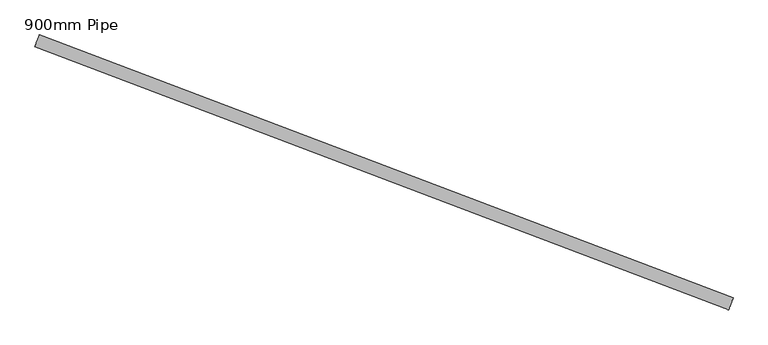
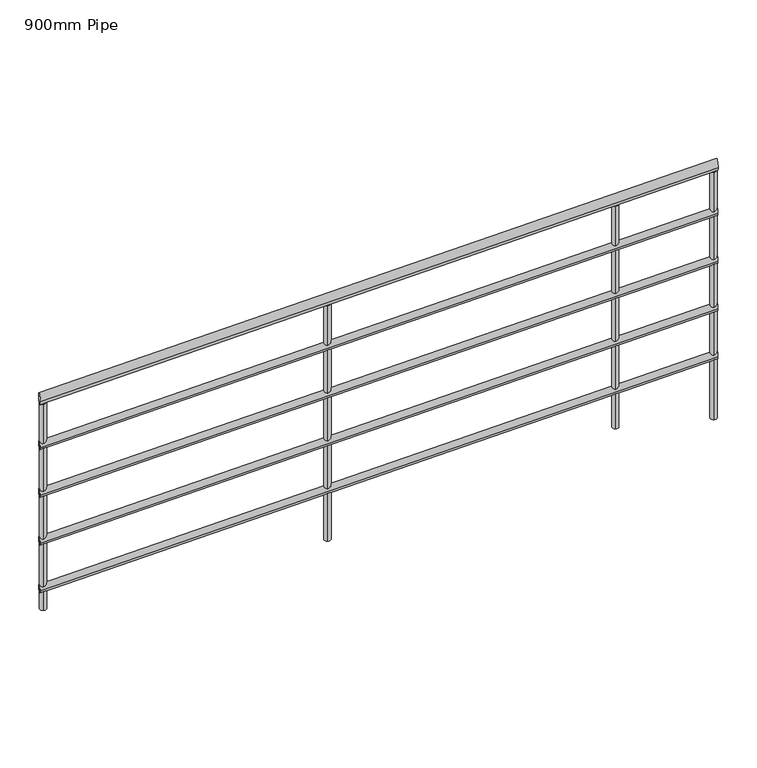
"""IFC4 building model written with IfcOpenShell, lengths in millimetres: railing geometry, 900mm Pipe."""

import ifcopenshell
import ifcopenshell.guid

model = None  # the IFC model being written
_history = None  # IfcOwnerHistory: only IFC2X3 demands one
_inside = {}  # id of a spatial element -> (the spatial element, [elements in it])
_under = {}  # id of a project, library or spatial element -> (it, [spatial elements below it])
_declared = {}  # id of a project -> (the project, [libraries it declares])
_typed = {}  # id of a type object -> (the type object, [elements of that type])
_made_of = {}  # id of a material, layer set ... -> (it, [elements and type objects made of it])


def new_model(schema):
    """Start an empty IFC model of exactly this schema.

    Asked for "IFC4X3", IfcOpenShell would pick the latest addendum, in which some entities
    have other attributes; the version numbers below select the first issue.
    IFC2X3 requires an IfcOwnerHistory on every rooted entity: one is made here for all.
    """
    global model, _history
    if schema == "IFC4X3":
        model = ifcopenshell.file(schema_version=(4, 3, 0, 0))
    else:
        model = ifcopenshell.file(schema=schema)
    _inside.clear()
    _under.clear()
    _declared.clear()
    _typed.clear()
    _made_of.clear()
    _history = None
    if model.schema == "IFC2X3":
        org = make("IfcOrganization", Name="unknown")
        user = make(
            "IfcPersonAndOrganization",
            ThePerson=make("IfcPerson", FamilyName="unknown"),
            TheOrganization=org,
        )
        app = make(
            "IfcApplication",
            ApplicationDeveloper=org,
            Version="unknown",
            ApplicationFullName="unknown",
            ApplicationIdentifier="unknown",
        )
        _history = make(
            "IfcOwnerHistory",
            OwningUser=user,
            OwningApplication=app,
            ChangeAction="ADDED",
            CreationDate=0,
        )
    return model


def make(cls, **values):
    """One entity of the class cls with the attributes given. An attribute that is None is left unset."""
    return model.create_entity(
        cls, **{name: value for name, value in values.items() if value is not None}
    )


def rooted(cls, **values):
    """An entity with a GlobalId (a new one), such as an element, a storey or a relation."""
    return make(cls, GlobalId=ifcopenshell.guid.new(), OwnerHistory=_history, **values)


def si_unit(unit_type, name, prefix=None):
    """IfcSIUnit, for example si_unit("LENGTHUNIT", "METRE", prefix="MILLI")."""
    return make("IfcSIUnit", UnitType=unit_type, Prefix=prefix, Name=name)


def assignment(units):
    """IfcUnitAssignment: the units of a project."""
    return None if units is None else make("IfcUnitAssignment", Units=units)


def point(xyz):
    """IfcCartesianPoint."""
    return None if xyz is None else make("IfcCartesianPoint", Coordinates=xyz)


def direction(xyz):
    """IfcDirection."""
    return None if xyz is None else make("IfcDirection", DirectionRatios=xyz)


def frame(location, z_axis=None, x_axis=None):
    """IfcAxis2Placement3D, a coordinate frame: its origin and axes. An axis left out is left unset."""
    return make(
        "IfcAxis2Placement3D",
        Location=point(location),
        Axis=direction(z_axis),
        RefDirection=direction(x_axis),
    )


def origin():
    """The frame at (0, 0, 0) with its axes left unset."""
    return frame((0.0, 0.0, 0.0))


def place(relative_to, where):
    """IfcLocalPlacement: puts the frame where relative to a parent placement (None: the world)."""
    return make(
        "IfcLocalPlacement", PlacementRelTo=relative_to, RelativePlacement=where
    )


def context(
    kind, dimensions, precision=None, world=None, true_north=None, identifier=None
):
    """IfcGeometricRepresentationContext, for example the 3D "Model" context."""
    return make(
        "IfcGeometricRepresentationContext",
        ContextIdentifier=identifier,
        ContextType=kind,
        CoordinateSpaceDimension=dimensions,
        Precision=precision,
        WorldCoordinateSystem=world,
        TrueNorth=true_north,
    )


def project(units=None, contexts=None):
    """IfcProject with its units and contexts."""
    return rooted(
        "IfcProject",
        Name="project",
        RepresentationContexts=contexts,
        UnitsInContext=assignment(units),
    )


def spatial(cls, under=None, at=None, **own):
    """A site, building, storey or space (cls), placed at a placement, below another one or the project."""
    s = rooted(cls, ObjectPlacement=at, **own)
    if under is not None:
        _under.setdefault(under.id(), (under, []))[1].append(s)
    return s


def circle_curve(where, radius):
    """IfcCircle in the frame where."""
    return make("IfcCircle", Position=where, Radius=radius)


def ellipse_curve(where, semi_axis1, semi_axis2):
    """IfcEllipse in the frame where."""
    return make(
        "IfcEllipse", Position=where, SemiAxis1=semi_axis1, SemiAxis2=semi_axis2
    )


def shape(context_of_items, identifier, shape_type, items):
    """IfcShapeRepresentation: the items that make up one representation, for example the "Body"."""
    return make(
        "IfcShapeRepresentation",
        ContextOfItems=context_of_items,
        RepresentationIdentifier=identifier,
        RepresentationType=shape_type,
        Items=items,
    )


def source(mapping_origin, context_of_items, identifier, shape_type, items):
    """IfcRepresentationMap: a shape defined once, which mapped items show again and again."""
    return make(
        "IfcRepresentationMap",
        MappingOrigin=mapping_origin,
        MappedRepresentation=shape(context_of_items, identifier, shape_type, items),
    )


def transform(
    local_origin,
    x_axis=None,
    y_axis=None,
    z_axis=None,
    scale=None,
    scale2=None,
    scale3=None,
    uniform=True,
):
    """IfcCartesianTransformationOperator3D, or its non-uniform kind. x_axis, y_axis, z_axis: its Axis1, 2, 3."""
    if uniform:
        return make(
            "IfcCartesianTransformationOperator3D",
            Axis1=direction(x_axis),
            Axis2=direction(y_axis),
            LocalOrigin=point(local_origin),
            Scale=scale,
            Axis3=direction(z_axis),
        )
    return make(
        "IfcCartesianTransformationOperator3DnonUniform",
        Axis1=direction(x_axis),
        Axis2=direction(y_axis),
        LocalOrigin=point(local_origin),
        Scale=scale,
        Axis3=direction(z_axis),
        Scale2=scale2,
        Scale3=scale3,
    )


def mapped(mapping_source, mapping_target):
    """IfcMappedItem: shows the shape of a source again, moved by a transform."""
    return make(
        "IfcMappedItem", MappingSource=mapping_source, MappingTarget=mapping_target
    )


def made_of(thing, what):
    """Note that an element or type object is made of a material, layer set ...; save() writes the relation."""
    if what is not None:
        _made_of.setdefault(what.id(), (what, []))[1].append(thing)
    return thing


def element(
    cls,
    number,
    at=None,
    inside=None,
    cuts=None,
    type_object=None,
    material=None,
    context=None,
    identifier="Body",
    shape_type=None,
    held_by="IfcProductDefinitionShape",
    body=None,
    shapes=None,
    **own,
):
    """One element of the class cls, such as IfcWall. Its Tag is "e" and its number.

    at: its placement. inside: the storey or other place that contains it. cuts: it is an
    opening in that element (IfcRelVoidsElement). A single representation is given by context,
    identifier, shape_type and body (its items); several are given by shapes. held_by: the class
    of the entity that holds the representations. save() writes the other relations.
    """
    e = rooted(cls, Tag="e%d" % number, ObjectPlacement=at, **own)
    if body is not None:
        shapes = [shape(context, identifier, shape_type, body)]
    if shapes is not None:
        e.Representation = make(held_by, Representations=shapes)
    if inside is not None:
        _inside.setdefault(inside.id(), (inside, []))[1].append(e)
    if cuts is not None:
        rooted(
            "IfcRelVoidsElement", RelatingBuildingElement=cuts, RelatedOpeningElement=e
        )
    if type_object is not None:
        _typed.setdefault(type_object.id(), (type_object, []))[1].append(e)
    return made_of(e, material)


def aggregate(whole, parts):
    """IfcRelAggregates: a whole, such as a stair, and the parts it consists of."""
    return rooted("IfcRelAggregates", RelatingObject=whole, RelatedObjects=parts)


def save(model, path):
    """Write the relations noted so far, then the file.

    IfcRelAggregates (storeys below a building ...), IfcRelContainedInSpatialStructure (elements
    in a storey), IfcRelDefinesByType, IfcRelAssociatesMaterial and IfcRelDeclares: one each for
    every whole, place, type object, material and project.
    """
    for whole, parts in _under.values():
        aggregate(whole, parts)
    for where, things in _inside.values():
        rooted(
            "IfcRelContainedInSpatialStructure",
            RelatedElements=things,
            RelatingStructure=where,
        )
    for kind, things in _typed.values():
        rooted("IfcRelDefinesByType", RelatedObjects=things, RelatingType=kind)
    for what, things in _made_of.values():
        rooted("IfcRelAssociatesMaterial", RelatedObjects=things, RelatingMaterial=what)
    for by, libraries in _declared.values():
        rooted("IfcRelDeclares", RelatingContext=by, RelatedDefinitions=libraries)
    model.write(path)


def plane_surface(at):
    """IfcPlane: the flat surface through the origin of the frame at, square to its z axis."""
    return make("IfcPlane", Position=at)


def cylinder_surface(at, radius):
    """IfcCylindricalSurface: all points at the distance radius from the z axis of the frame at."""
    return make("IfcCylindricalSurface", Position=at, Radius=radius)


def advanced_brep(points, edges, surfaces, faces):
    """IfcAdvancedBrep: a solid bounded by faces that lie on surfaces and meet in shared edges.

    An edge is (start, end): straight between two places in points (the first is 0);
    or (start, end, curve); or (start, end, curve, False) where it runs against its curve.
    A face is (place in surfaces, loops), or (place, loops, False) where it looks against
    its surface's normal. A loop lists edges by number (the first is 1), with a minus sign
    where the edge is run from its end to its start. The first loop is the outer one.
    """
    corners = [point(p) for p in points]
    vertices = [make("IfcVertexPoint", VertexGeometry=c) for c in corners]
    made = []
    for start, end, *more in edges:
        made.append(
            make(
                "IfcEdgeCurve",
                EdgeStart=vertices[start],
                EdgeEnd=vertices[end],
                EdgeGeometry=more[0] if more else make("IfcPolyline", Points=[corners[start], corners[end]]),
                SameSense=more[1] if len(more) > 1 else True,
            )
        )
    hull = []
    for where, loops, *sense in faces:
        bounds = []
        for j, loop in enumerate(loops):
            ring = [make("IfcOrientedEdge", EdgeElement=made[abs(k) - 1], Orientation=k > 0) for k in loop]
            bounds.append(
                make(
                    "IfcFaceOuterBound" if j == 0 else "IfcFaceBound",
                    Bound=make("IfcEdgeLoop", EdgeList=ring),
                    Orientation=True,
                )
            )
        hull.append(make("IfcAdvancedFace", Bounds=bounds, FaceSurface=surfaces[where], SameSense=sense[0] if sense else True))
    return make("IfcAdvancedBrep", Outer=make("IfcClosedShell", CfsFaces=hull))


def railing_900mm_pipe_1b75225c(model_context):
    return source(origin(), model_context, "Body", "AdvancedBrep", [
        advanced_brep(
        [(947227.6380622, -10247.2739952, 8558.386247), (947241.8453849, -10209.8821246, 8558.386247), (949427.8160035, -11083.2481646, 9275.5627176), (949442.0233262, -11045.856294, 9275.5627176)],
        [
            (0, 1, ellipse_curve(frame((947234.7417235, -10228.5780599, 8558.386247), z_axis=(-0.9347967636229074, 0.3551830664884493, 0.0), x_axis=(0.0, 0.0, -1.0)), 20.9078706, 20.0)),
            (1, 0, ellipse_curve(frame((947234.7417235, -10228.5780599, 8558.386247), z_axis=(-0.9347967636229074, 0.3551830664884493, 0.0), x_axis=(0.0, 0.0, -1.0)), 20.9078706, 20.0)),
            (2, 3, ellipse_curve(frame((949434.9196649, -11064.5522293, 9275.5627176), z_axis=(0.9347967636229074, -0.3551830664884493, 0.0), x_axis=(0.0, 0.0, -1.0)), 20.9078706, 20.0)),
            (3, 2, ellipse_curve(frame((949434.9196649, -11064.5522293, 9275.5627176), z_axis=(0.9347967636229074, -0.3551830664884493, 0.0), x_axis=(0.0, 0.0, -1.0)), 20.9078706, 20.0)),
            (1, 3),
            (2, 0),
        ],
        [
            plane_surface(frame((947234.7417235, -10228.5780599, 8579.2941176), z_axis=(-0.9347967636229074, 0.3551830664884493, 0.0), x_axis=(0.3551830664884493, 0.9347967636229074, 0.0))),
            plane_surface(frame((949434.9196649, -11064.5522293, 9296.4705882), z_axis=(0.9347967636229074, -0.3551830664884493, 0.0), x_axis=(0.3551830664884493, 0.9347967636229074, 0.0))),
            cylinder_surface(frame((947240.1911753, -10230.6486201, 8560.1625663), z_axis=(-0.894205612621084, 0.3397601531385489, -0.2914778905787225), x_axis=(0.3551830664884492, 0.9347967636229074, 0.0)), 20.0),
        ],
        [
            (0, [[1, 2]]),
            (1, [[3, 4]]),
            (2, [[-2, 5, -3, 6]]),
            (2, [[-1, -6, -4, -5]]),
        ],
    ),
        advanced_brep(
        [(947229.4139775, -10242.6000114, 8363.6132147), (947240.0694695, -10214.5561085, 8363.6132147), (949429.5919189, -11078.5741808, 9080.7896853), (949440.2474109, -11050.5302779, 9080.7896853)],
        [
            (0, 1, ellipse_curve(frame((947234.7417235, -10228.5780599, 8363.6132147), z_axis=(-0.9347967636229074, 0.3551830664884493, 0.0), x_axis=(0.0, 0.0, -1.0)), 15.680903, 15.0)),
            (1, 0, ellipse_curve(frame((947234.7417235, -10228.5780599, 8363.6132147), z_axis=(-0.9347967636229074, 0.3551830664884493, 0.0), x_axis=(0.0, 0.0, -1.0)), 15.680903, 15.0)),
            (2, 3, ellipse_curve(frame((949434.9196649, -11064.5522293, 9080.7896853), z_axis=(0.9347967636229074, -0.3551830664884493, 0.0), x_axis=(0.0, 0.0, -1.0)), 15.680903, 15.0)),
            (3, 2, ellipse_curve(frame((949434.9196649, -11064.5522293, 9080.7896853), z_axis=(0.9347967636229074, -0.3551830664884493, 0.0), x_axis=(0.0, 0.0, -1.0)), 15.680903, 15.0)),
            (0, 2),
            (3, 1),
        ],
        [
            plane_surface(frame((947234.7417235, -10228.5780599, 8379.2941176), z_axis=(-0.9347967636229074, 0.3551830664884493, 0.0), x_axis=(0.3551830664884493, 0.9347967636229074, 0.0))),
            plane_surface(frame((949434.9196649, -11064.5522293, 9096.4705882), z_axis=(0.9347967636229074, -0.3551830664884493, 0.0), x_axis=(0.3551830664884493, 0.9347967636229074, 0.0))),
            cylinder_surface(frame((947238.8288124, -10230.1309801, 8364.9454542), z_axis=(-0.894205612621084, 0.3397601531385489, -0.2914778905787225), x_axis=(0.3551830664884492, 0.9347967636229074, 0.0)), 15.0),
        ],
        [
            (0, [[1, 2]]),
            (1, [[3, 4]]),
            (2, [[-1, 5, -4, 6]]),
            (2, [[-2, -6, -3, -5]]),
        ],
    ),
        advanced_brep(
        [(947229.4139775, -10242.6000114, 8163.6132147), (947240.0694695, -10214.5561085, 8163.6132147), (949429.5919189, -11078.5741808, 8880.7896853), (949440.2474109, -11050.5302779, 8880.7896853)],
        [
            (0, 1, ellipse_curve(frame((947234.7417235, -10228.5780599, 8163.6132147), z_axis=(-0.9347967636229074, 0.3551830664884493, 0.0), x_axis=(0.0, 0.0, -1.0)), 15.680903, 15.0)),
            (1, 0, ellipse_curve(frame((947234.7417235, -10228.5780599, 8163.6132147), z_axis=(-0.9347967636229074, 0.3551830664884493, 0.0), x_axis=(0.0, 0.0, -1.0)), 15.680903, 15.0)),
            (2, 3, ellipse_curve(frame((949434.9196649, -11064.5522293, 8880.7896853), z_axis=(0.9347967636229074, -0.3551830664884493, 0.0), x_axis=(0.0, 0.0, -1.0)), 15.680903, 15.0)),
            (3, 2, ellipse_curve(frame((949434.9196649, -11064.5522293, 8880.7896853), z_axis=(0.9347967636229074, -0.3551830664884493, 0.0), x_axis=(0.0, 0.0, -1.0)), 15.680903, 15.0)),
            (0, 2),
            (3, 1),
        ],
        [
            plane_surface(frame((947234.7417235, -10228.5780599, 8179.2941176), z_axis=(-0.9347967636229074, 0.3551830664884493, 0.0), x_axis=(0.3551830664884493, 0.9347967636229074, 0.0))),
            plane_surface(frame((949434.9196649, -11064.5522293, 8896.4705882), z_axis=(0.9347967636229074, -0.3551830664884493, 0.0), x_axis=(0.3551830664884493, 0.9347967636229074, 0.0))),
            cylinder_surface(frame((947238.8288124, -10230.1309801, 8164.9454542), z_axis=(-0.894205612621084, 0.3397601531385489, -0.2914778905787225), x_axis=(0.3551830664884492, 0.9347967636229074, 0.0)), 15.0),
        ],
        [
            (0, [[1, 2]]),
            (1, [[3, 4]]),
            (2, [[-1, 5, -4, 6]]),
            (2, [[-2, -6, -3, -5]]),
        ],
    ),
        advanced_brep(
        [(947229.4139775, -10242.6000114, 7963.6132147), (947240.0694695, -10214.5561085, 7963.6132147), (949429.5919189, -11078.5741808, 8680.7896853), (949440.2474109, -11050.5302779, 8680.7896853)],
        [
            (0, 1, ellipse_curve(frame((947234.7417235, -10228.5780599, 7963.6132147), z_axis=(-0.9347967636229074, 0.3551830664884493, 0.0), x_axis=(0.0, 0.0, -1.0)), 15.680903, 15.0)),
            (1, 0, ellipse_curve(frame((947234.7417235, -10228.5780599, 7963.6132147), z_axis=(-0.9347967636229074, 0.3551830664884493, 0.0), x_axis=(0.0, 0.0, -1.0)), 15.680903, 15.0)),
            (2, 3, ellipse_curve(frame((949434.9196649, -11064.5522293, 8680.7896853), z_axis=(0.9347967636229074, -0.3551830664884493, 0.0), x_axis=(0.0, 0.0, -1.0)), 15.680903, 15.0)),
            (3, 2, ellipse_curve(frame((949434.9196649, -11064.5522293, 8680.7896853), z_axis=(0.9347967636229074, -0.3551830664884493, 0.0), x_axis=(0.0, 0.0, -1.0)), 15.680903, 15.0)),
            (0, 2),
            (3, 1),
        ],
        [
            plane_surface(frame((947234.7417235, -10228.5780599, 7979.2941176), z_axis=(-0.9347967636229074, 0.3551830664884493, 0.0), x_axis=(0.3551830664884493, 0.9347967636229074, 0.0))),
            plane_surface(frame((949434.9196649, -11064.5522293, 8696.4705882), z_axis=(0.9347967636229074, -0.3551830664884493, 0.0), x_axis=(0.3551830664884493, 0.9347967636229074, 0.0))),
            cylinder_surface(frame((947238.8288124, -10230.1309801, 7964.9454542), z_axis=(-0.894205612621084, 0.3397601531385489, -0.2914778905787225), x_axis=(0.3551830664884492, 0.9347967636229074, 0.0)), 15.0),
        ],
        [
            (0, [[1, 2]]),
            (1, [[3, 4]]),
            (2, [[-1, 5, -4, 6]]),
            (2, [[-2, -6, -3, -5]]),
        ],
    ),
        advanced_brep(
        [(947229.4139775, -10242.6000114, 7763.6132147), (947240.0694695, -10214.5561085, 7763.6132147), (949429.5919189, -11078.5741808, 8480.7896853), (949440.2474109, -11050.5302779, 8480.7896853)],
        [
            (0, 1, ellipse_curve(frame((947234.7417235, -10228.5780599, 7763.6132147), z_axis=(-0.9347967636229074, 0.3551830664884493, 0.0), x_axis=(0.0, 0.0, -1.0)), 15.680903, 15.0)),
            (1, 0, ellipse_curve(frame((947234.7417235, -10228.5780599, 7763.6132147), z_axis=(-0.9347967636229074, 0.3551830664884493, 0.0), x_axis=(0.0, 0.0, -1.0)), 15.680903, 15.0)),
            (2, 3, ellipse_curve(frame((949434.9196649, -11064.5522293, 8480.7896853), z_axis=(0.9347967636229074, -0.3551830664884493, 0.0), x_axis=(0.0, 0.0, -1.0)), 15.680903, 15.0)),
            (3, 2, ellipse_curve(frame((949434.9196649, -11064.5522293, 8480.7896853), z_axis=(0.9347967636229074, -0.3551830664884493, 0.0), x_axis=(0.0, 0.0, -1.0)), 15.680903, 15.0)),
            (0, 2),
            (3, 1),
        ],
        [
            plane_surface(frame((947234.7417235, -10228.5780599, 7779.2941176), z_axis=(-0.9347967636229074, 0.3551830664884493, 0.0), x_axis=(0.3551830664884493, 0.9347967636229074, 0.0))),
            plane_surface(frame((949434.9196649, -11064.5522293, 8496.4705882), z_axis=(0.9347967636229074, -0.3551830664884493, 0.0), x_axis=(0.3551830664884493, 0.9347967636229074, 0.0))),
            cylinder_surface(frame((947238.8288124, -10230.1309801, 7764.9454542), z_axis=(-0.894205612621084, 0.3397601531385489, -0.2914778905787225), x_axis=(0.3551830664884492, 0.9347967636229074, 0.0)), 15.0),
        ],
        [
            (0, [[1, 2]]),
            (1, [[3, 4]]),
            (2, [[-1, 5, -4, 6]]),
            (2, [[-2, -6, -3, -5]]),
        ],
    ),
        advanced_brep(
        [(949108.7750391, -10927.2592333, 9146.8965794), (949099.8954625, -10950.6291524, 9146.8965794), (949099.8954625, -10950.6291524, 8217.1764706), (949108.7750391, -10927.2592333, 8217.1764706)],
        [
            (0, 1, ellipse_curve(frame((949104.3352508, -10938.9441929, 9146.8965794), z_axis=(0.2724725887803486, -0.10352801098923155, -0.9565775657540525), x_axis=(0.8942056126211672, -0.33976015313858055, 0.2914778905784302)), 13.0674191, 12.5)),
            (1, 2),
            (2, 3, circle_curve(frame((949104.3352508, -10938.9441929, 8217.1764706), z_axis=(0.0, 0.0, 1.0), x_axis=(-0.3551830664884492, -0.9347967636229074, 0.0)), 12.5)),
            (3, 0),
            (3, 2, circle_curve(frame((949104.3352508, -10938.9441929, 8217.1764706), z_axis=(0.0, 0.0, 1.0), x_axis=(-0.3551830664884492, -0.9347967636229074, 0.0)), 12.5)),
            (1, 0, ellipse_curve(frame((949104.3352508, -10938.9441929, 9146.8965794), z_axis=(0.2724725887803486, -0.10352801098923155, -0.9565775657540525), x_axis=(0.8942056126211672, -0.33976015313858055, 0.2914778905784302)), 13.0674191, 12.5)),
        ],
        [
            cylinder_surface(frame((949104.3352508, -10938.9441929, 8117.1764706), z_axis=(0.0, 0.0, 1.0), x_axis=(-0.3551830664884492, -0.9347967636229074, 0.0)), 12.5),
            plane_surface(frame((949118.8255932, -10971.1936886, 9154.5143069), z_axis=(-0.2724725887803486, 0.10352801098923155, 0.9565775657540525), x_axis=(0.3551830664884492, 0.9347967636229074, 0.0))),
            plane_surface(frame((949072.085755, -10953.4345353, 8217.1764706), z_axis=(0.0, 0.0, -1.0), x_axis=(0.3551830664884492, 0.9347967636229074, 0.0))),
        ],
        [
            (0, [[1, 2, 3, 4]]),
            (0, [[5, -2, 6, -4]]),
            (1, [[-6, -1]]),
            (2, [[-5, -3]]),
        ],
    ),
        advanced_brep(
        [(948173.9782755, -10572.0761669, 8842.1874779), (948165.0986988, -10595.4460859, 8842.1874779), (948165.0986988, -10595.4460859, 7858.5882353), (948173.9782755, -10572.0761669, 7858.5882353)],
        [
            (0, 1, ellipse_curve(frame((948169.5384872, -10583.7611264, 8842.1874779), z_axis=(0.27247258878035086, -0.1035280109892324, -0.9565775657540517), x_axis=(0.8942056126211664, -0.3397601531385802, 0.29147789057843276)), 13.0674191, 12.5)),
            (1, 2),
            (2, 3, circle_curve(frame((948169.5384872, -10583.7611264, 7858.5882353), z_axis=(0.0, 0.0, 1.0), x_axis=(-0.3551830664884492, -0.9347967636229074, 0.0)), 12.5)),
            (3, 0),
            (3, 2, circle_curve(frame((948169.5384872, -10583.7611264, 7858.5882353), z_axis=(0.0, 0.0, 1.0), x_axis=(-0.3551830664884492, -0.9347967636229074, 0.0)), 12.5)),
            (1, 0, ellipse_curve(frame((948169.5384872, -10583.7611264, 8842.1874779), z_axis=(0.27247258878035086, -0.1035280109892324, -0.9565775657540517), x_axis=(0.8942056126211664, -0.3397601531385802, 0.29147789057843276)), 13.0674191, 12.5)),
        ],
        [
            cylinder_surface(frame((948169.5384872, -10583.7611264, 7758.5882353), z_axis=(0.0, 0.0, 1.0), x_axis=(-0.3551830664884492, -0.9347967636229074, 0.0)), 12.5),
            plane_surface(frame((948184.0288296, -10616.0106222, 8849.8052054), z_axis=(-0.27247258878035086, 0.1035280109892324, 0.9565775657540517), x_axis=(0.3551830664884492, 0.9347967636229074, 0.0))),
            plane_surface(frame((948137.2889914, -10598.2514688, 7858.5882353), z_axis=(0.0, 0.0, -1.0), x_axis=(0.3551830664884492, 0.9347967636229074, 0.0))),
        ],
        [
            (0, [[1, 2, 3, 4]]),
            (0, [[5, -2, 6, -4]]),
            (1, [[-6, -1]]),
            (2, [[-5, -3]]),
        ],
    ),
        advanced_brep(
        [(949427.6744937, -11048.4274814, 9250.8459832), (949418.794917, -11071.7974005, 9250.8459832), (949418.794917, -11071.7974005, 8217.1764706), (949427.6744937, -11048.4274814, 8217.1764706)],
        [
            (0, 1, ellipse_curve(frame((949423.2347053, -11060.112441, 9250.8459832), z_axis=(0.2724725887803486, -0.10352801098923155, -0.9565775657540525), x_axis=(0.8942056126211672, -0.33976015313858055, 0.2914778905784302)), 13.0674191, 12.5)),
            (1, 2),
            (2, 3, circle_curve(frame((949423.2347053, -11060.112441, 8217.1764706), z_axis=(0.0, 0.0, 1.0), x_axis=(-0.3551830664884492, -0.9347967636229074, 0.0)), 12.5)),
            (3, 0),
            (3, 2, circle_curve(frame((949423.2347053, -11060.112441, 8217.1764706), z_axis=(0.0, 0.0, 1.0), x_axis=(-0.3551830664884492, -0.9347967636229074, 0.0)), 12.5)),
            (1, 0, ellipse_curve(frame((949423.2347053, -11060.112441, 9250.8459832), z_axis=(0.2724725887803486, -0.10352801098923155, -0.9565775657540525), x_axis=(0.8942056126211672, -0.33976015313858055, 0.2914778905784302)), 13.0674191, 12.5)),
        ],
        [
            cylinder_surface(frame((949423.2347053, -11060.112441, 8117.1764706), z_axis=(0.0, 0.0, 1.0), x_axis=(-0.3551830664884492, -0.9347967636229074, 0.0)), 12.5),
            plane_surface(frame((949437.7250478, -11092.3619367, 9258.4637107), z_axis=(-0.2724725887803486, 0.10352801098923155, 0.9565775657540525), x_axis=(0.3551830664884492, 0.9347967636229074, 0.0))),
            plane_surface(frame((949390.9852096, -11074.6027834, 8217.1764706), z_axis=(0.0, 0.0, -1.0), x_axis=(0.3551830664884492, 0.9347967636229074, 0.0))),
        ],
        [
            (0, [[1, 2, 3, 4]]),
            (0, [[5, -2, 6, -4]]),
            (1, [[-6, -1]]),
            (2, [[-5, -3]]),
        ],
    ),
        advanced_brep(
        [(947250.8664714, -10221.3328887, 8541.2872401), (947241.9868948, -10244.7028078, 8541.2872401), (947241.9868948, -10244.7028078, 7679.2941176), (947250.8664714, -10221.3328887, 7679.2941176)],
        [
            (0, 1, ellipse_curve(frame((947246.4266831, -10233.0178482, 8541.2872401), z_axis=(0.27247258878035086, -0.1035280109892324, -0.9565775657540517), x_axis=(0.8942056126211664, -0.3397601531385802, 0.29147789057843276)), 13.0674191, 12.5)),
            (1, 2),
            (2, 3, circle_curve(frame((947246.4266831, -10233.0178482, 7679.2941176), z_axis=(0.0, 0.0, 1.0), x_axis=(-0.3551830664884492, -0.9347967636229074, 0.0)), 12.5)),
            (3, 0),
            (3, 2, circle_curve(frame((947246.4266831, -10233.0178482, 7679.2941176), z_axis=(0.0, 0.0, 1.0), x_axis=(-0.3551830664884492, -0.9347967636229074, 0.0)), 12.5)),
            (1, 0, ellipse_curve(frame((947246.4266831, -10233.0178482, 8541.2872401), z_axis=(0.27247258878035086, -0.1035280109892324, -0.9565775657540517), x_axis=(0.8942056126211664, -0.3397601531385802, 0.29147789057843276)), 13.0674191, 12.5)),
        ],
        [
            cylinder_surface(frame((947246.4266831, -10233.0178482, 7579.2941176), z_axis=(0.0, 0.0, 1.0), x_axis=(-0.3551830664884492, -0.9347967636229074, 0.0)), 12.5),
            plane_surface(frame((947260.9170255, -10265.267344, 8548.9049677), z_axis=(-0.27247258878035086, 0.1035280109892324, 0.9565775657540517), x_axis=(0.3551830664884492, 0.9347967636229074, 0.0))),
            plane_surface(frame((947214.1771873, -10247.5081907, 7679.2941176), z_axis=(0.0, 0.0, -1.0), x_axis=(0.3551830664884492, 0.9347967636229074, 0.0))),
        ],
        [
            (0, [[1, 2, 3, 4]]),
            (0, [[5, -2, 6, -4]]),
            (1, [[-6, -1]]),
            (2, [[-5, -3]]),
        ],
    ),
    ])


if __name__ == "__main__":
    model = new_model("IFC4")
    model_context = context("Model", 3, world=origin())
    ifc_project = project(units=[si_unit("LENGTHUNIT", "METRE", prefix="MILLI")], contexts=[model_context])
    site = spatial("IfcSite", under=ifc_project)
    building = spatial("IfcBuilding", under=site)
    placement = place(None, origin())
    railing_900mm_pipe_shape = railing_900mm_pipe_1b75225c(model_context)
    element("IfcRailing", 1, ObjectType="900mm Pipe", at=placement, inside=building, context=model_context, shape_type="MappedRepresentation", body=[
        mapped(railing_900mm_pipe_shape, transform((0.0, 0.0, 0.0), x_axis=(1.0, 0.0, 0.0), y_axis=(0.0, 1.0, 0.0), z_axis=(0.0, 0.0, 1.0))),
    ])
    save(model, "model.ifc")
